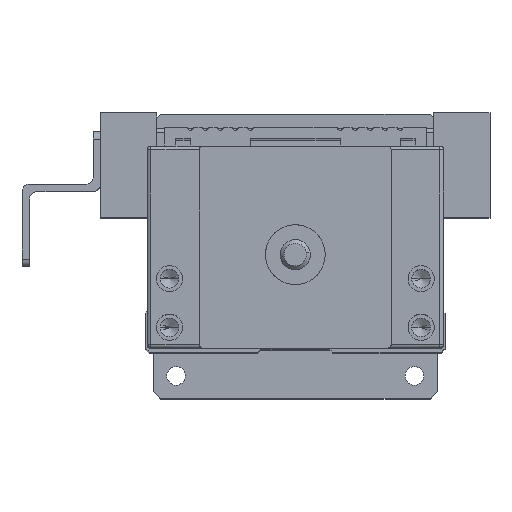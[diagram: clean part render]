
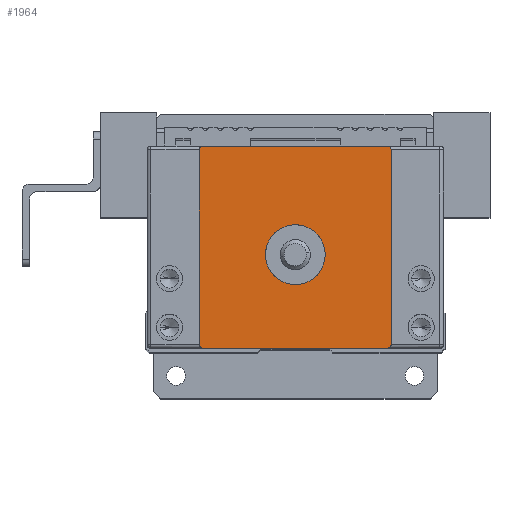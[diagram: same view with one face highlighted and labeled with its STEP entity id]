
A CAD part, top view. The second image highlights one B-rep face of the part: STEP entity #1964.
In plain terms, the highlighted planar face has unit normal (0, 0, 1).
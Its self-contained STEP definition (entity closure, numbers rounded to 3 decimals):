
#26 = CARTESIAN_POINT ( 'NONE',  ( 12.3, -13., 10. ) ) ;
#471 = CARTESIAN_POINT ( 'NONE',  ( 19.8, 13.5, 10. ) ) ;
#727 = CIRCLE ( 'NONE', #21650, 4. ) ;
#840 = DIRECTION ( 'NONE',  ( 1., 0., 0. ) ) ;
#1081 = EDGE_CURVE ( 'NONE', #9636, #23977, #8958, .T. ) ;
#1142 = AXIS2_PLACEMENT_3D ( 'NONE', #16400, #3451, #18554 ) ;
#1485 = ORIENTED_EDGE ( 'NONE', *, *, #1081, .T. ) ;
#1756 = ORIENTED_EDGE ( 'NONE', *, *, #6515, .T. ) ;
#1926 = CARTESIAN_POINT ( 'NONE',  ( 12.8, 13., 10. ) ) ;
#1964 = ADVANCED_FACE ( 'NONE', ( #5870, #22445 ), #5280, .T. ) ;
#2238 = DIRECTION ( 'NONE',  ( 1., 0., 0. ) ) ;
#2257 = CARTESIAN_POINT ( 'NONE',  ( -12.3, 13., 10. ) ) ;
#2504 = CARTESIAN_POINT ( 'NONE',  ( 19.8, -13.5, 10. ) ) ;
#3284 = ORIENTED_EDGE ( 'NONE', *, *, #24741, .T. ) ;
#3430 = EDGE_LOOP ( 'NONE', ( #23681, #8376 ) ) ;
#3451 = DIRECTION ( 'NONE',  ( 0., 0., -1. ) ) ;
#3601 = LINE ( 'NONE', #471, #20864 ) ;
#4414 = DIRECTION ( 'NONE',  ( 1., 0., 0. ) ) ;
#4433 = EDGE_CURVE ( 'NONE', #23977, #26646, #27764, .T. ) ;
#4653 = ORIENTED_EDGE ( 'NONE', *, *, #4433, .T. ) ;
#4986 = VERTEX_POINT ( 'NONE', #7039 ) ;
#5280 = PLANE ( 'NONE',  #17766 ) ;
#5870 = FACE_BOUND ( 'NONE', #3430, .T. ) ;
#6381 = DIRECTION ( 'NONE',  ( 0., 0., 1. ) ) ;
#6515 = EDGE_CURVE ( 'NONE', #4986, #21332, #3601, .T. ) ;
#6865 = CIRCLE ( 'NONE', #10840, 0.5 ) ;
#7039 = CARTESIAN_POINT ( 'NONE',  ( 12.3, 13.5, 10. ) ) ;
#7450 = DIRECTION ( 'NONE',  ( 1., 0., 0. ) ) ;
#8061 = EDGE_CURVE ( 'NONE', #9975, #14035, #13649, .T. ) ;
#8079 = CARTESIAN_POINT ( 'NONE',  ( -12.8, 13., 10. ) ) ;
#8376 = ORIENTED_EDGE ( 'NONE', *, *, #9740, .T. ) ;
#8958 = CIRCLE ( 'NONE', #22845, 0.5 ) ;
#9348 = DIRECTION ( 'NONE',  ( 0., -1., 0. ) ) ;
#9360 = ORIENTED_EDGE ( 'NONE', *, *, #13555, .T. ) ;
#9468 = LINE ( 'NONE', #11600, #20298 ) ;
#9546 = CARTESIAN_POINT ( 'NONE',  ( 0., 0., 10. ) ) ;
#9636 = VERTEX_POINT ( 'NONE', #10940 ) ;
#9740 = EDGE_CURVE ( 'NONE', #14035, #9975, #727, .T. ) ;
#9975 = VERTEX_POINT ( 'NONE', #14296 ) ;
#10075 = CARTESIAN_POINT ( 'NONE',  ( -12.3, 13.5, 10. ) ) ;
#10546 = CARTESIAN_POINT ( 'NONE',  ( 12.3, -13.5, 10. ) ) ;
#10569 = EDGE_LOOP ( 'NONE', ( #1756, #24813, #9360, #1485, #4653, #14041, #3284, #15827 ) ) ;
#10840 = AXIS2_PLACEMENT_3D ( 'NONE', #26762, #13771, #840 ) ;
#10940 = CARTESIAN_POINT ( 'NONE',  ( -12.8, -13., 10. ) ) ;
#11147 = EDGE_CURVE ( 'NONE', #21332, #14657, #18574, .T. ) ;
#11173 = VECTOR ( 'NONE', #19790, 1000. ) ;
#11178 = CARTESIAN_POINT ( 'NONE',  ( -12.3, -13.5, 10. ) ) ;
#11378 = CARTESIAN_POINT ( 'NONE',  ( 0., -1., 10. ) ) ;
#11600 = CARTESIAN_POINT ( 'NONE',  ( 12.8, 0., 10. ) ) ;
#11790 = CIRCLE ( 'NONE', #19840, 0.5 ) ;
#13544 = DIRECTION ( 'NONE',  ( 1., 0., 0. ) ) ;
#13555 = EDGE_CURVE ( 'NONE', #14657, #9636, #14494, .T. ) ;
#13649 = CIRCLE ( 'NONE', #1142, 4. ) ;
#13749 = DIRECTION ( 'NONE',  ( 0., 1., 0. ) ) ;
#13771 = DIRECTION ( 'NONE',  ( 0., 0., 1. ) ) ;
#14035 = VERTEX_POINT ( 'NONE', #15450 ) ;
#14041 = ORIENTED_EDGE ( 'NONE', *, *, #27874, .T. ) ;
#14296 = CARTESIAN_POINT ( 'NONE',  ( 4., -1., 10. ) ) ;
#14482 = CARTESIAN_POINT ( 'NONE',  ( 12.8, -13., 10. ) ) ;
#14494 = LINE ( 'NONE', #22294, #26039 ) ;
#14593 = AXIS2_PLACEMENT_3D ( 'NONE', #2257, #17366, #4414 ) ;
#14657 = VERTEX_POINT ( 'NONE', #8079 ) ;
#15161 = DIRECTION ( 'NONE',  ( 0., 0., 1. ) ) ;
#15450 = CARTESIAN_POINT ( 'NONE',  ( -4., -1., 10. ) ) ;
#15594 = DIRECTION ( 'NONE',  ( -1., 0., 0. ) ) ;
#15827 = ORIENTED_EDGE ( 'NONE', *, *, #18079, .T. ) ;
#16400 = CARTESIAN_POINT ( 'NONE',  ( 0., -1., 10. ) ) ;
#17366 = DIRECTION ( 'NONE',  ( 0., 0., 1. ) ) ;
#17766 = AXIS2_PLACEMENT_3D ( 'NONE', #9546, #20418, #7450 ) ;
#18079 = EDGE_CURVE ( 'NONE', #25486, #4986, #6865, .T. ) ;
#18554 = DIRECTION ( 'NONE',  ( 1., 0., 0. ) ) ;
#18574 = CIRCLE ( 'NONE', #14593, 0.5 ) ;
#19372 = CARTESIAN_POINT ( 'NONE',  ( -12.3, -13., 10. ) ) ;
#19790 = DIRECTION ( 'NONE',  ( 1., 0., 0. ) ) ;
#19840 = AXIS2_PLACEMENT_3D ( 'NONE', #26, #15161, #2238 ) ;
#20298 = VECTOR ( 'NONE', #13749, 1000. ) ;
#20418 = DIRECTION ( 'NONE',  ( 0., 0., 1. ) ) ;
#20864 = VECTOR ( 'NONE', #15594, 1000. ) ;
#21332 = VERTEX_POINT ( 'NONE', #10075 ) ;
#21543 = DIRECTION ( 'NONE',  ( 1., 0., 0. ) ) ;
#21650 = AXIS2_PLACEMENT_3D ( 'NONE', #11378, #26524, #13544 ) ;
#22294 = CARTESIAN_POINT ( 'NONE',  ( -12.8, 0., 10. ) ) ;
#22445 = FACE_OUTER_BOUND ( 'NONE', #10569, .T. ) ;
#22845 = AXIS2_PLACEMENT_3D ( 'NONE', #19372, #6381, #21543 ) ;
#23681 = ORIENTED_EDGE ( 'NONE', *, *, #8061, .T. ) ;
#23977 = VERTEX_POINT ( 'NONE', #11178 ) ;
#24741 = EDGE_CURVE ( 'NONE', #25348, #25486, #9468, .T. ) ;
#24813 = ORIENTED_EDGE ( 'NONE', *, *, #11147, .T. ) ;
#25348 = VERTEX_POINT ( 'NONE', #14482 ) ;
#25486 = VERTEX_POINT ( 'NONE', #1926 ) ;
#26039 = VECTOR ( 'NONE', #9348, 1000. ) ;
#26524 = DIRECTION ( 'NONE',  ( 0., 0., -1. ) ) ;
#26646 = VERTEX_POINT ( 'NONE', #10546 ) ;
#26762 = CARTESIAN_POINT ( 'NONE',  ( 12.3, 13., 10. ) ) ;
#27764 = LINE ( 'NONE', #2504, #11173 ) ;
#27874 = EDGE_CURVE ( 'NONE', #26646, #25348, #11790, .T. ) ;
